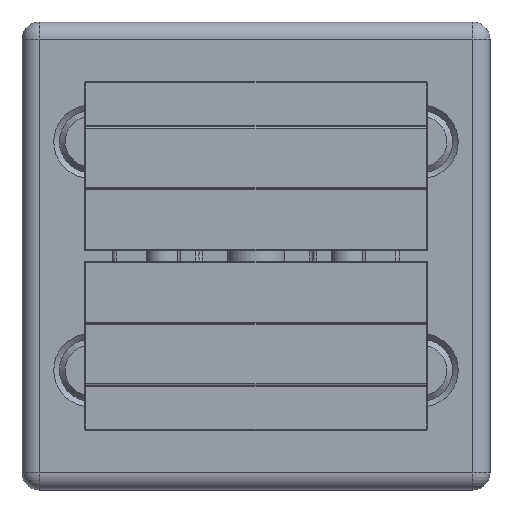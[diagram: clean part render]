
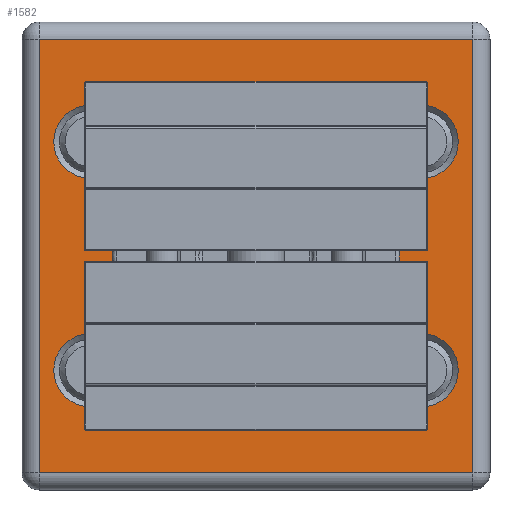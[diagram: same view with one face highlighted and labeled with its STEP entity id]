
A CAD part, front view. The second image highlights one B-rep face of the part: STEP entity #1582.
In plain terms, the highlighted planar face has unit normal (0, -1, 0).
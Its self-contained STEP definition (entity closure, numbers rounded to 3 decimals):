
#776=PLANE('',#6488);
#899=LINE('',#9286,#1237);
#900=LINE('',#9289,#1238);
#901=LINE('',#9291,#1239);
#902=LINE('',#9293,#1240);
#1237=VECTOR('',#7333,1.);
#1238=VECTOR('',#7334,1.);
#1239=VECTOR('',#7335,1.);
#1240=VECTOR('',#7336,1.);
#1582=ADVANCED_FACE('',(#2189,#2190,#2191,#2192,#2193,#2194),#776,.T.);
#2189=FACE_BOUND('',#2433,.T.);
#2190=FACE_BOUND('',#2434,.T.);
#2191=FACE_BOUND('',#2435,.T.);
#2192=FACE_BOUND('',#2436,.T.);
#2193=FACE_BOUND('',#2437,.T.);
#2194=FACE_BOUND('',#2438,.T.);
#2433=EDGE_LOOP('',(#3027));
#2434=EDGE_LOOP('',(#3028));
#2435=EDGE_LOOP('',(#3029));
#2436=EDGE_LOOP('',(#3030));
#2437=EDGE_LOOP('',(#3031,#3032,#3033,#3034));
#2438=EDGE_LOOP('',(#3035));
#3027=ORIENTED_EDGE('',*,*,#5247,.T.);
#3028=ORIENTED_EDGE('',*,*,#5248,.T.);
#3029=ORIENTED_EDGE('',*,*,#5249,.T.);
#3030=ORIENTED_EDGE('',*,*,#5250,.T.);
#3031=ORIENTED_EDGE('',*,*,#5251,.T.);
#3032=ORIENTED_EDGE('',*,*,#5252,.T.);
#3033=ORIENTED_EDGE('',*,*,#5253,.T.);
#3034=ORIENTED_EDGE('',*,*,#5254,.T.);
#3035=ORIENTED_EDGE('',*,*,#5255,.T.);
#4704=VERTEX_POINT('',#9279);
#4705=VERTEX_POINT('',#9281);
#4706=VERTEX_POINT('',#9283);
#4707=VERTEX_POINT('',#9285);
#4708=VERTEX_POINT('',#9287);
#4709=VERTEX_POINT('',#9288);
#4710=VERTEX_POINT('',#9290);
#4711=VERTEX_POINT('',#9292);
#4712=VERTEX_POINT('',#9295);
#5247=EDGE_CURVE('',#4704,#4704,#6084,.T.);
#5248=EDGE_CURVE('',#4705,#4705,#6085,.T.);
#5249=EDGE_CURVE('',#4706,#4706,#6086,.T.);
#5250=EDGE_CURVE('',#4707,#4707,#6087,.T.);
#5251=EDGE_CURVE('',#4708,#4709,#899,.T.);
#5252=EDGE_CURVE('',#4709,#4710,#900,.T.);
#5253=EDGE_CURVE('',#4710,#4711,#901,.T.);
#5254=EDGE_CURVE('',#4711,#4708,#902,.T.);
#5255=EDGE_CURVE('',#4712,#4712,#6088,.T.);
#6084=CIRCLE('',#6483,3.2);
#6085=CIRCLE('',#6484,3.2);
#6086=CIRCLE('',#6485,3.2);
#6087=CIRCLE('',#6486,3.2);
#6088=CIRCLE('',#6487,10.748);
#6483=AXIS2_PLACEMENT_3D('',#9278,#7325,#7326);
#6484=AXIS2_PLACEMENT_3D('',#9280,#7327,#7328);
#6485=AXIS2_PLACEMENT_3D('',#9282,#7329,#7330);
#6486=AXIS2_PLACEMENT_3D('',#9284,#7331,#7332);
#6487=AXIS2_PLACEMENT_3D('',#9294,#7337,#7338);
#6488=AXIS2_PLACEMENT_3D('',#9296,#7339,#7340);
#7325=DIRECTION('',(0.,1.,0.));
#7326=DIRECTION('',(0.,0.,-1.));
#7327=DIRECTION('',(0.,1.,0.));
#7328=DIRECTION('',(0.,0.,-1.));
#7329=DIRECTION('',(0.,1.,0.));
#7330=DIRECTION('',(0.,0.,-1.));
#7331=DIRECTION('',(0.,1.,0.));
#7332=DIRECTION('',(0.,0.,-1.));
#7333=DIRECTION('',(-1.,0.,0.));
#7334=DIRECTION('',(0.,0.,-1.));
#7335=DIRECTION('',(1.,0.,0.));
#7336=DIRECTION('',(0.,0.,1.));
#7337=DIRECTION('',(0.,1.,0.));
#7338=DIRECTION('',(0.,0.,-1.));
#7339=DIRECTION('',(0.,-1.,0.));
#7340=DIRECTION('',(0.,0.,-1.));
#9278=CARTESIAN_POINT('',(29.5,24.35,6.75));
#9279=CARTESIAN_POINT('',(29.5,24.35,3.55));
#9280=CARTESIAN_POINT('',(29.5,24.35,26.75));
#9281=CARTESIAN_POINT('',(29.5,24.35,23.55));
#9282=CARTESIAN_POINT('',(0.5,24.35,26.75));
#9283=CARTESIAN_POINT('',(0.5,24.35,23.55));
#9284=CARTESIAN_POINT('',(0.5,24.35,6.75));
#9285=CARTESIAN_POINT('',(0.5,24.35,3.55));
#9286=CARTESIAN_POINT('',(-4.008,24.35,35.732));
#9287=CARTESIAN_POINT('',(33.982,24.35,35.732));
#9288=CARTESIAN_POINT('',(-3.982,24.35,35.732));
#9289=CARTESIAN_POINT('',(-3.982,24.35,16.75));
#9290=CARTESIAN_POINT('',(-3.982,24.35,-2.232));
#9291=CARTESIAN_POINT('',(25.229,24.35,-2.232));
#9292=CARTESIAN_POINT('',(33.982,24.35,-2.232));
#9293=CARTESIAN_POINT('',(33.982,24.35,16.75));
#9294=CARTESIAN_POINT('',(15.,24.35,16.75));
#9295=CARTESIAN_POINT('',(15.,24.35,6.002));
#9296=CARTESIAN_POINT('',(25.229,24.35,16.75));
